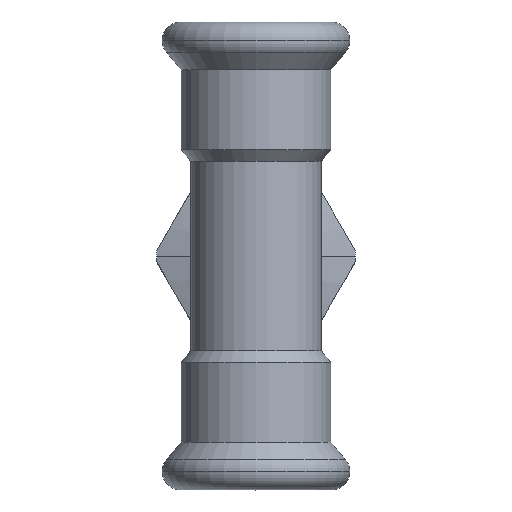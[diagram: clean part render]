
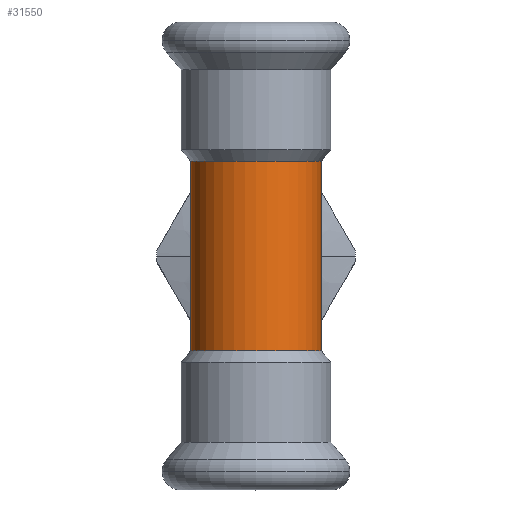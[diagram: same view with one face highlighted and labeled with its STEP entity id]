
A CAD part, top view. The second image highlights one B-rep face of the part: STEP entity #31550.
In plain terms, the highlighted cylindrical face has radius 11 mm (diameter 22 mm), a partial arc.
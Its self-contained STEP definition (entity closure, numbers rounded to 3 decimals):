
#7960=CARTESIAN_POINT('',(-96.193,61.409,
-16.));
#7970=DIRECTION('',(0.,0.,-1.));
#7980=DIRECTION('',(-1.,0.,0.));
#7990=AXIS2_PLACEMENT_3D('',#7960,#7970,#7980);
#8000=CYLINDRICAL_SURFACE('',#7990,11.);
#31190=CARTESIAN_POINT('',(-107.193,61.409,
-16.));
#31200=DIRECTION('',(0.,0.,-1.));
#31210=VECTOR('',#31200,1.);
#31220=LINE('',#31190,#31210);
#31230=CARTESIAN_POINT('',(-107.193,61.409,
16.));
#31240=VERTEX_POINT('',#31230);
#31250=CARTESIAN_POINT('',(-107.193,61.409,
-16.));
#31260=VERTEX_POINT('',#31250);
#31270=EDGE_CURVE('',#31240,#31260,#31220,.T.);
#31280=ORIENTED_EDGE('',*,*,#31270,.F.);
#31290=CARTESIAN_POINT('',(-96.193,61.409,
-16.));
#31300=DIRECTION('',(0.,0.,-1.));
#31310=DIRECTION('',(1.,0.,0.));
#31320=AXIS2_PLACEMENT_3D('',#31290,#31300,#31310);
#31330=CIRCLE('',#31320,11.);
#31340=CARTESIAN_POINT('',(-85.193,61.409,
-16.));
#31350=VERTEX_POINT('',#31340);
#31360=EDGE_CURVE('',#31260,#31350,#31330,.T.);
#31370=ORIENTED_EDGE('',*,*,#31360,.F.);
#31380=CARTESIAN_POINT('',(-85.193,61.409,
-16.));
#31390=DIRECTION('',(0.,0.,-1.));
#31400=VECTOR('',#31390,1.);
#31410=LINE('',#31380,#31400);
#31420=CARTESIAN_POINT('',(-85.193,61.409,
16.));
#31430=VERTEX_POINT('',#31420);
#31440=EDGE_CURVE('',#31430,#31350,#31410,.T.);
#31450=ORIENTED_EDGE('',*,*,#31440,.T.);
#31460=CARTESIAN_POINT('',(-96.193,61.409,
16.));
#31470=DIRECTION('',(0.,0.,-1.));
#31480=DIRECTION('',(-1.,0.,0.));
#31490=AXIS2_PLACEMENT_3D('',#31460,#31470,#31480);
#31500=CIRCLE('',#31490,11.);
#31510=EDGE_CURVE('',#31240,#31430,#31500,.T.);
#31520=ORIENTED_EDGE('',*,*,#31510,.T.);
#31530=EDGE_LOOP('',(#31520,#31450,#31370,#31280));
#31540=FACE_OUTER_BOUND('',#31530,.T.);
#31550=ADVANCED_FACE('',(#31540),#8000,.T.);
